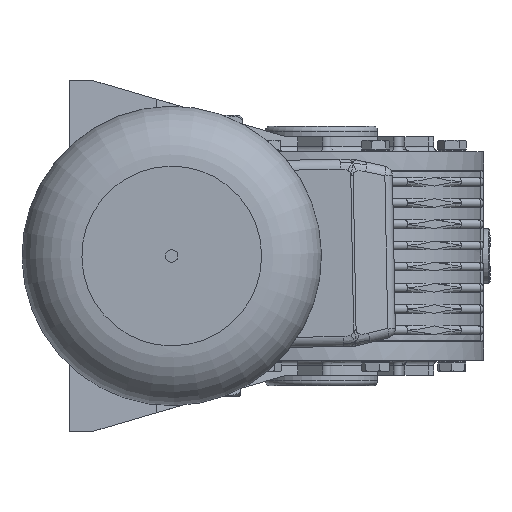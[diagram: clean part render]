
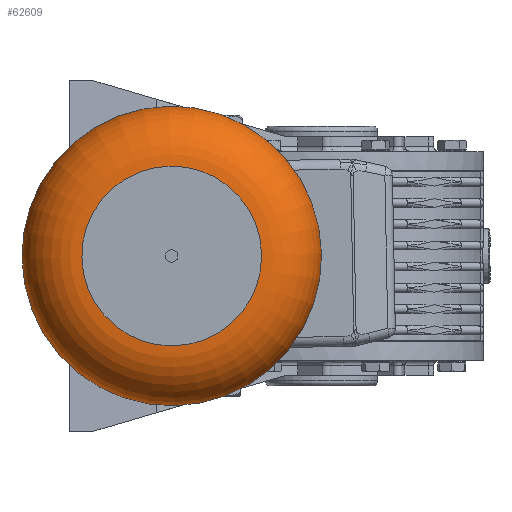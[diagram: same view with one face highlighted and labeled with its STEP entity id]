
A CAD part, left-side view. The second image highlights one B-rep face of the part: STEP entity #62609.
In plain terms, the highlighted toroidal (fillet/blend) face has major radius 36 mm and minor radius 24 mm.
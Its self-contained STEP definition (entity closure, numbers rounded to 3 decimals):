
#62582=CARTESIAN_POINT('',(236.0,0.0,0.0));
#62583=DIRECTION('',(1.0,0.0,0.0));
#62584=DIRECTION('',(0.0,0.0,-1.0));
#62585=AXIS2_PLACEMENT_3D('',#62582,#62583,#62584);
#62586=TOROIDAL_SURFACE('',#62585,36.,24.0);
#62587=CARTESIAN_POINT('',(260.0,36.,0.0));
#62588=VERTEX_POINT('',#62587);
#62589=CARTESIAN_POINT('',(260.0,0.0,0.0));
#62590=DIRECTION('',(1.0,0.0,0.0));
#62591=DIRECTION('',(0.0,1.0,0.0));
#62592=AXIS2_PLACEMENT_3D('',#62589,#62590,#62591);
#62593=CIRCLE('',#62592,36.);
#62594=EDGE_CURVE('',#62588,#62588,#62593,.T.);
#62595=ORIENTED_EDGE('',*,*,#62594,.F.);
#62596=EDGE_LOOP('',(#62595));
#62597=FACE_OUTER_BOUND('',#62596,.T.);
#62598=CARTESIAN_POINT('',(236.0,60.,0.0));
#62599=VERTEX_POINT('',#62598);
#62600=CARTESIAN_POINT('',(236.0,0.0,0.0));
#62601=DIRECTION('',(1.0,0.0,0.0));
#62602=DIRECTION('',(0.0,1.0,0.0));
#62603=AXIS2_PLACEMENT_3D('',#62600,#62601,#62602);
#62604=CIRCLE('',#62603,60.);
#62605=EDGE_CURVE('',#62599,#62599,#62604,.T.);
#62606=ORIENTED_EDGE('',*,*,#62605,.T.);
#62607=EDGE_LOOP('',(#62606));
#62608=FACE_BOUND('',#62607,.T.);
#62609=ADVANCED_FACE('',(#62597,#62608),#62586,.T.);
